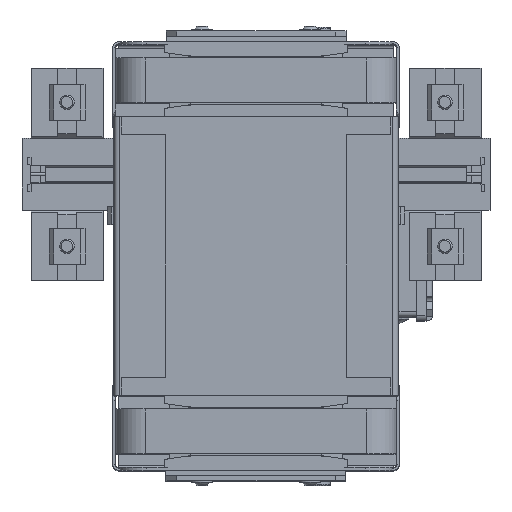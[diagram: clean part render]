
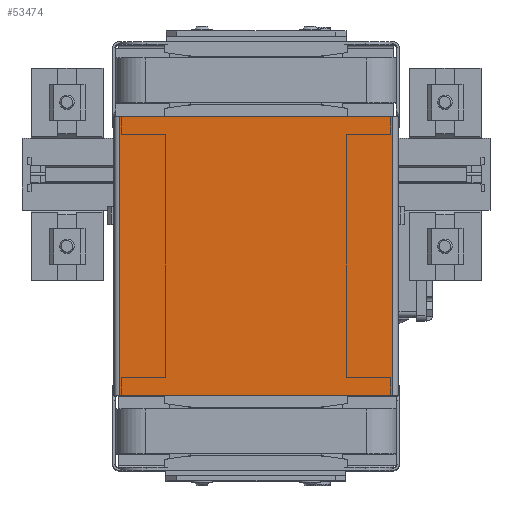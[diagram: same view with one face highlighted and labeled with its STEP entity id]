
A CAD part, top view. The second image highlights one B-rep face of the part: STEP entity #53474.
In plain terms, the highlighted planar face has unit normal (0, 0, 1).
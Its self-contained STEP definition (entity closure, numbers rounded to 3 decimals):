
#6598=FACE_OUTER_BOUND('',#9479,.T.);
#9479=EDGE_LOOP('',(#38572,#38573,#38574,#38575,#38576,#38577,#38578,#38579));
#13116=LINE('',#79002,#18631);
#13117=LINE('',#79004,#18632);
#13118=LINE('',#79006,#18633);
#13119=LINE('',#79008,#18634);
#13120=LINE('',#79010,#18635);
#13121=LINE('',#79012,#18636);
#13122=LINE('',#79014,#18637);
#13123=LINE('',#79015,#18638);
#18631=VECTOR('',#63035,155.);
#18632=VECTOR('',#63036,28.);
#18633=VECTOR('',#63037,96.);
#18634=VECTOR('',#63038,28.);
#18635=VECTOR('',#63039,155.);
#18636=VECTOR('',#63040,28.);
#18637=VECTOR('',#63041,96.);
#18638=VECTOR('',#63042,28.);
#24232=VERTEX_POINT('',#79000);
#24233=VERTEX_POINT('',#79001);
#24234=VERTEX_POINT('',#79003);
#24235=VERTEX_POINT('',#79005);
#24236=VERTEX_POINT('',#79007);
#24237=VERTEX_POINT('',#79009);
#24238=VERTEX_POINT('',#79011);
#24239=VERTEX_POINT('',#79013);
#29768=EDGE_CURVE('',#24232,#24233,#13116,.T.);
#29769=EDGE_CURVE('',#24234,#24233,#13117,.T.);
#29770=EDGE_CURVE('',#24235,#24234,#13118,.T.);
#29771=EDGE_CURVE('',#24236,#24235,#13119,.T.);
#29772=EDGE_CURVE('',#24236,#24237,#13120,.T.);
#29773=EDGE_CURVE('',#24238,#24237,#13121,.T.);
#29774=EDGE_CURVE('',#24239,#24238,#13122,.T.);
#29775=EDGE_CURVE('',#24232,#24239,#13123,.T.);
#38572=ORIENTED_EDGE('',*,*,#29768,.T.);
#38573=ORIENTED_EDGE('',*,*,#29769,.F.);
#38574=ORIENTED_EDGE('',*,*,#29770,.F.);
#38575=ORIENTED_EDGE('',*,*,#29771,.F.);
#38576=ORIENTED_EDGE('',*,*,#29772,.T.);
#38577=ORIENTED_EDGE('',*,*,#29773,.F.);
#38578=ORIENTED_EDGE('',*,*,#29774,.F.);
#38579=ORIENTED_EDGE('',*,*,#29775,.F.);
#51415=PLANE('',#56529);
#53474=ADVANCED_FACE('',(#6598),#51415,.T.);
#56529=AXIS2_PLACEMENT_3D('',#78999,#63033,#63034);
#63033=DIRECTION('center_axis',(0.,0.,
1.));
#63034=DIRECTION('ref_axis',(1.,0.,0.));
#63035=DIRECTION('',(0.,1.,0.));
#63036=DIRECTION('',(1.,0.,0.));
#63037=DIRECTION('',(1.,0.,0.));
#63038=DIRECTION('',(1.,0.,0.));
#63039=DIRECTION('',(0.,-1.,0.));
#63040=DIRECTION('',(-1.,0.,0.));
#63041=DIRECTION('',(-1.,0.,0.));
#63042=DIRECTION('',(-1.,0.,0.));
#78999=CARTESIAN_POINT('Origin',(0.,0.,
82.475));
#79000=CARTESIAN_POINT('',(76.,-77.5,82.475));
#79001=CARTESIAN_POINT('',(76.,77.5,82.475));
#79002=CARTESIAN_POINT('',(76.,-38.75,82.475));
#79003=CARTESIAN_POINT('',(48.,77.5,82.475));
#79004=CARTESIAN_POINT('',(-79.,77.5,82.475));
#79005=CARTESIAN_POINT('',(-48.,77.5,82.475));
#79006=CARTESIAN_POINT('',(-26.25,77.5,82.475));
#79007=CARTESIAN_POINT('',(-76.,77.5,82.475));
#79008=CARTESIAN_POINT('',(-79.,77.5,82.475));
#79009=CARTESIAN_POINT('',(-76.,-77.5,82.475));
#79010=CARTESIAN_POINT('',(-76.,38.75,82.475));
#79011=CARTESIAN_POINT('',(-48.,-77.5,82.475));
#79012=CARTESIAN_POINT('',(79.,-77.5,82.475));
#79013=CARTESIAN_POINT('',(48.,-77.5,82.475));
#79014=CARTESIAN_POINT('',(-26.25,-77.5,82.475));
#79015=CARTESIAN_POINT('',(79.,-77.5,82.475));
